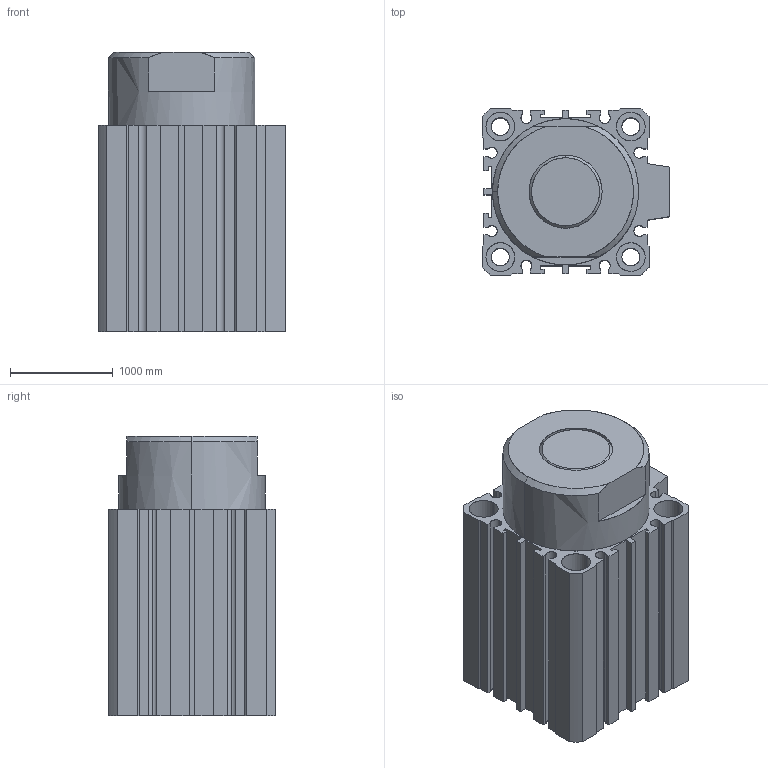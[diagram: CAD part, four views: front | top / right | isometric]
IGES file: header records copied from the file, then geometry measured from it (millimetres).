
Start section: SolidWorks IGES file using analytic representation for surfaces
Global section: file name: C:\Documents and Settings\Standard\Bureau\NM pieces 3d\ELO 50 25 tige entrée.IGS; native system: SolidWorks 2007; preprocessor: SolidWorks 2007; author: Standard; date: 080328.111420; units: inch
Bounding box: 1828.8 x 1625.6 x 2717.8 mm (x, y, z)
Surface area: 43788416.9 mm2 (no closed solid volume)
Topology: 0 solids, 0 shells, 580 faces, 12723 edges, 12763 vertices
Faces by surface type: bspline 517, revolution 63
